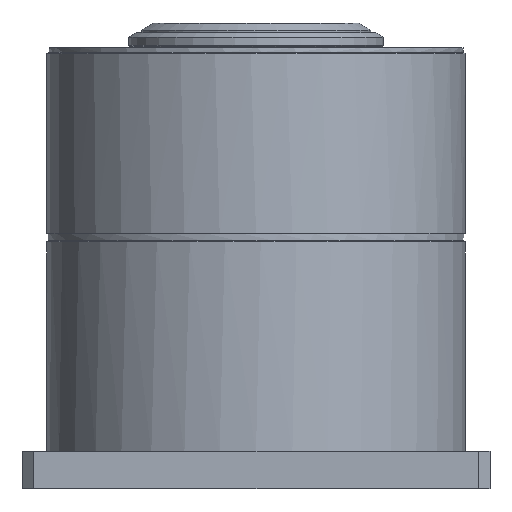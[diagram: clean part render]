
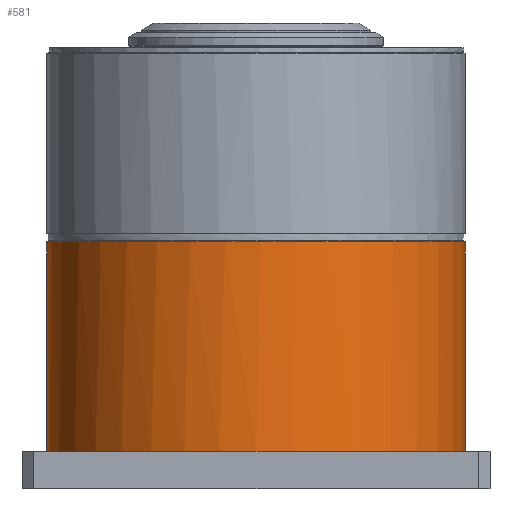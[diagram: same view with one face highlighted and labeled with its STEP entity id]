
A CAD part, front view. The second image highlights one B-rep face of the part: STEP entity #581.
In plain terms, the highlighted cylindrical face has radius 89.5 mm (diameter 179 mm), a full revolution.
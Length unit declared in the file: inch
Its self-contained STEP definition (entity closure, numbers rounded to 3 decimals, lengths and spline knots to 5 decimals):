
#85=CYLINDRICAL_SURFACE('',#649,3.52362);
#144=FACE_BOUND('',#231,.T.);
#184=FACE_OUTER_BOUND('',#230,.T.);
#230=EDGE_LOOP('',(#460));
#231=EDGE_LOOP('',(#461));
#310=CIRCLE('',#650,3.52362);
#311=CIRCLE('',#651,3.52362);
#346=VERTEX_POINT('',#917);
#347=VERTEX_POINT('',#919);
#398=EDGE_CURVE('',#346,#346,#310,.T.);
#399=EDGE_CURVE('',#347,#347,#311,.T.);
#460=ORIENTED_EDGE('',*,*,#398,.F.);
#461=ORIENTED_EDGE('',*,*,#399,.F.);
#581=ADVANCED_FACE('',(#184,#144),#85,.T.);
#649=AXIS2_PLACEMENT_3D('',#916,#739,#740);
#650=AXIS2_PLACEMENT_3D('',#918,#741,#742);
#651=AXIS2_PLACEMENT_3D('',#920,#743,#744);
#739=DIRECTION('center_axis',(0.,0.,
1.));
#740=DIRECTION('ref_axis',(-0.966,-0.259,0.));
#741=DIRECTION('center_axis',(0.,0.,
-1.));
#742=DIRECTION('ref_axis',(-0.966,-0.259,0.));
#743=DIRECTION('center_axis',(0.,0.,
1.));
#744=DIRECTION('ref_axis',(-0.966,-0.259,0.));
#916=CARTESIAN_POINT('Origin',(-17.86684,16.43493,5.18604));
#917=CARTESIAN_POINT('',(-14.34321,16.43493,5.18604));
#918=CARTESIAN_POINT('Origin',(-17.86684,16.43493,5.18604));
#919=CARTESIAN_POINT('',(-14.46328,17.34691,8.74903));
#920=CARTESIAN_POINT('Origin',(-17.86684,16.43493,8.74903));
